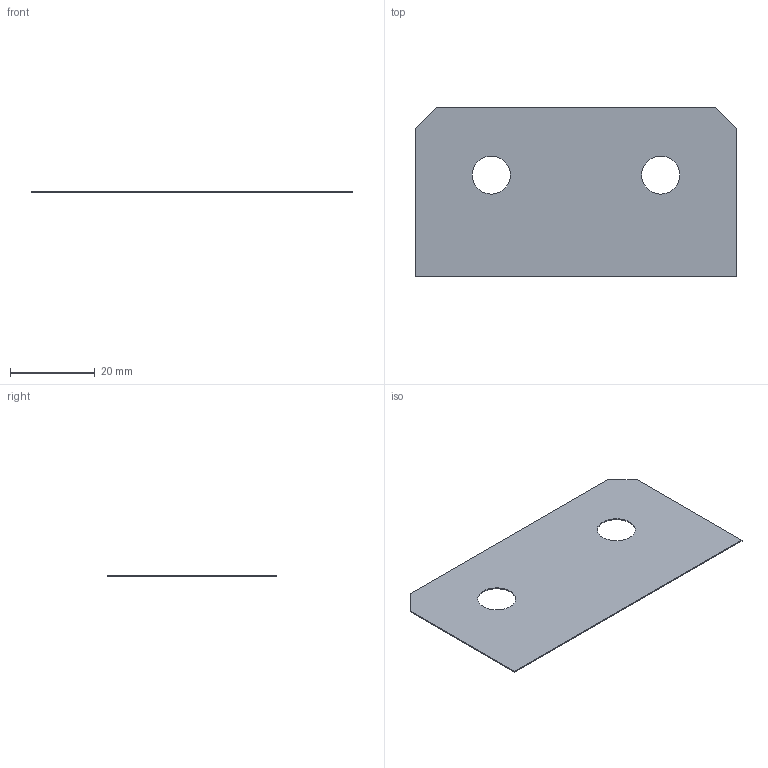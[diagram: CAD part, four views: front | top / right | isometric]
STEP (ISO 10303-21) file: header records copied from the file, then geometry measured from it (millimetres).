
FILE_DESCRIPTION(/* description */ ('FEUILLE MYLAR SUPPORT VESSIE','CAx-IF Rec.Pracs.---Representation and Presentation of Product Manufacturing Information (PMI)---4.0---2014-10-13'),/* implementation_level */ '2;1');
FILE_NAME(/* name */ 'vv810014-A.stp',/* time_stamp */ '2025-09-29T11:11:54+02:00',/* author */ ('RIVIERE C.'),/* organization */ (''),/* preprocessor_version */ 'ST-DEVELOPER v20',/* originating_system */ 'Autodesk Inventor 2025',/* authorisation */ '');
FILE_SCHEMA (('AP242_MANAGED_MODEL_BASED_3D_ENGINEERING_MIM_LF { 1 0 10303 442 1 1 4 }'));
Length unit declared in the file: millimetre
Products named in the file (1): VICTOR.V.81.00.14
Bounding box: 76 x 40 x 0.25 mm (x, y, z)
Volume: 721.9 mm3; surface area: 5846.2 mm2
Topology: 1 solids, 1 shells, 10 faces, 24 edges, 16 vertices
Faces by surface type: plane 8, cylinder 2
Full cylindrical faces by diameter (mm): 9 x2
Entity records: 431 total; most frequent: CARTESIAN_POINT 75, DIRECTION 62, ORIENTED_EDGE 48, EDGE_CURVE 24, AXIS2_PLACEMENT_3D 21, LINE 20, VECTOR 20, VERTEX_POINT 16
